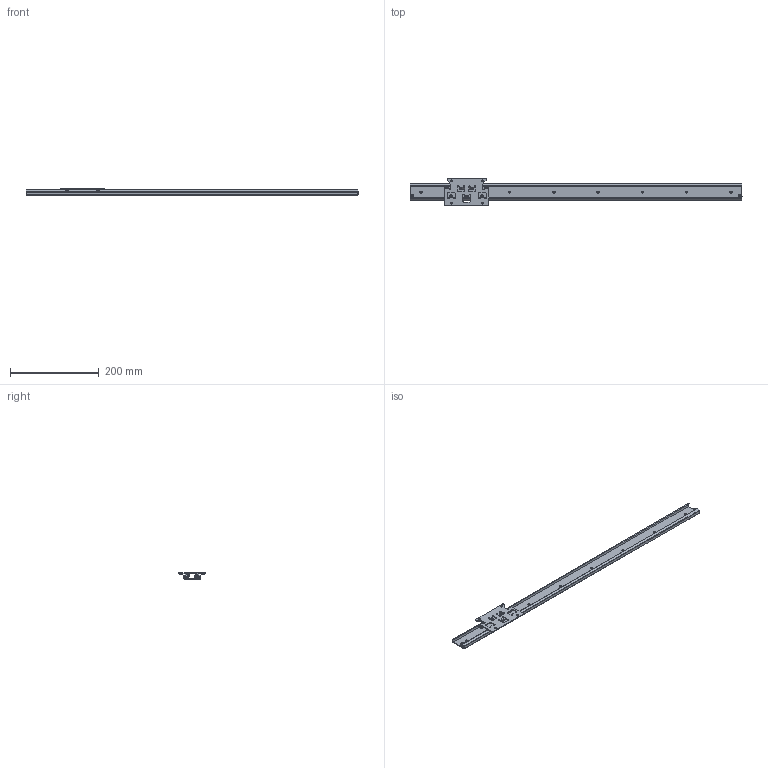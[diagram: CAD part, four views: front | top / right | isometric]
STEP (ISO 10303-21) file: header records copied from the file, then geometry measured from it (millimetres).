
FILE_DESCRIPTION((''),'1');
FILE_NAME('H:/図庫/国内ﾕﾆｯﾄ/ｽﾗｲﾄﾞ/ホームページ用ＣＡＤ図面/3D/37SW/stp', '2018-10-22T23:35:32',(''), (''), 'KCM Version 1.1.1442.0', 'Kubotek KeyCreator', '');
FILE_SCHEMA(('AUTOMOTIVE_DESIGN'));
Length unit declared in the file: millimetre
Bounding box: 750 x 60 x 14.8 mm (x, y, z)
Surface area: 107457.1 mm2 (no closed solid volume)
Topology: 0 solids, 623 shells, 623 faces, 2491 edges, 2190 vertices
Faces by surface type: plane 258, cone 170, cylinder 140, torus 48, bspline 6, sphere 1
Full cylindrical faces by diameter (mm): 2.3 x6, 2.44 x7, 3 x21, 3.5 x1, 4 x7, 4.03 x6, 4.5 x6, 5 x6, 5.5 x2, 5.6 x3, 6 x5, 8 x6, 8.2 x2
Entity records: 27401 total; most frequent: CARTESIAN_POINT 5632, DIRECTION 4877, ORIENTED_EDGE 2792, EDGE_CURVE 2490, VERTEX_POINT 2183, AXIS2_PLACEMENT_3D 1884, CIRCLE 1232, VECTOR 1109
